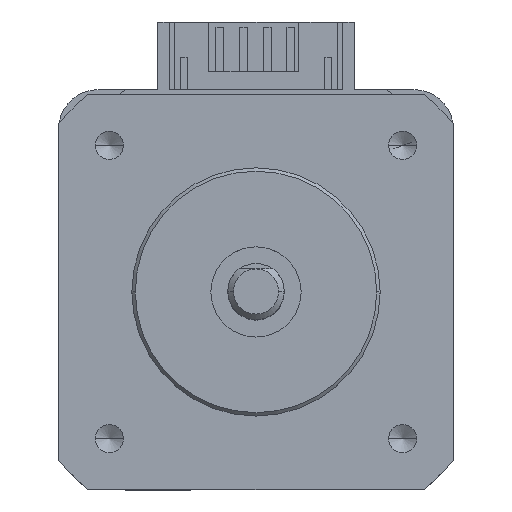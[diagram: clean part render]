
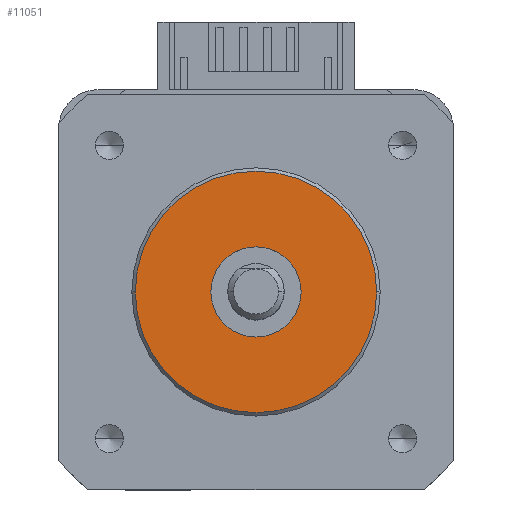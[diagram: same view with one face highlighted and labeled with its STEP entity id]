
A CAD part, top view. The second image highlights one B-rep face of the part: STEP entity #11051.
In plain terms, the highlighted planar face has unit normal (0, 0, 1).
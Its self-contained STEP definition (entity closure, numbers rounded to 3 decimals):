
#53 = DIRECTION ( 'NONE',  ( 1., 0., 0. ) ) ;
#400 = VERTEX_POINT ( 'NONE', #16834 ) ;
#411 = EDGE_LOOP ( 'NONE', ( #8684, #17828 ) ) ;
#945 = CIRCLE ( 'NONE', #2428, 10.7 ) ;
#1741 = VERTEX_POINT ( 'NONE', #6316 ) ;
#2428 = AXIS2_PLACEMENT_3D ( 'NONE', #5080, #9904, #11003 ) ;
#2576 = CARTESIAN_POINT ( 'NONE',  ( -16.263, 3.733, -4.2 ) ) ;
#2597 = EDGE_CURVE ( 'NONE', #400, #5759, #945, .T. ) ;
#3452 = AXIS2_PLACEMENT_3D ( 'NONE', #6509, #4969, #16379 ) ;
#3706 = FACE_OUTER_BOUND ( 'NONE', #20229, .T. ) ;
#4565 = ORIENTED_EDGE ( 'NONE', *, *, #15689, .T. ) ;
#4969 = DIRECTION ( 'NONE',  ( 0., 0., 1. ) ) ;
#5080 = CARTESIAN_POINT ( 'NONE',  ( -5.563, 3.733, -4.2 ) ) ;
#5759 = VERTEX_POINT ( 'NONE', #2576 ) ;
#6083 = ORIENTED_EDGE ( 'NONE', *, *, #2597, .T. ) ;
#6316 = CARTESIAN_POINT ( 'NONE',  ( -9.563, 3.733, -4.2 ) ) ;
#6509 = CARTESIAN_POINT ( 'NONE',  ( -5.563, 3.733, -4.2 ) ) ;
#8243 = AXIS2_PLACEMENT_3D ( 'NONE', #9439, #20813, #11037 ) ;
#8610 = CARTESIAN_POINT ( 'NONE',  ( -5.563, 3.733, -4.2 ) ) ;
#8684 = ORIENTED_EDGE ( 'NONE', *, *, #13066, .F. ) ;
#9439 = CARTESIAN_POINT ( 'NONE',  ( -5.563, 3.733, -4.2 ) ) ;
#9904 = DIRECTION ( 'NONE',  ( 0., 0., 1. ) ) ;
#9975 = DIRECTION ( 'NONE',  ( 0., 0., 1. ) ) ;
#10213 = DIRECTION ( 'NONE',  ( 1., 0., 0. ) ) ;
#10723 = CIRCLE ( 'NONE', #15659, 10.7 ) ;
#11003 = DIRECTION ( 'NONE',  ( 1., 0., 0. ) ) ;
#11037 = DIRECTION ( 'NONE',  ( 1., 0., 0. ) ) ;
#11051 = ADVANCED_FACE ( 'NONE', ( #3706, #16776 ), #11468, .T. ) ;
#11468 = PLANE ( 'NONE',  #3452 ) ;
#11955 = CIRCLE ( 'NONE', #21295, 4. ) ;
#12069 = CIRCLE ( 'NONE', #8243, 4. ) ;
#13066 = EDGE_CURVE ( 'NONE', #17658, #1741, #12069, .T. ) ;
#15659 = AXIS2_PLACEMENT_3D ( 'NONE', #19713, #9975, #53 ) ;
#15689 = EDGE_CURVE ( 'NONE', #5759, #400, #10723, .T. ) ;
#16379 = DIRECTION ( 'NONE',  ( 1., 0., 0. ) ) ;
#16776 = FACE_BOUND ( 'NONE', #411, .T. ) ;
#16834 = CARTESIAN_POINT ( 'NONE',  ( 5.137, 3.733, -4.2 ) ) ;
#17067 = EDGE_CURVE ( 'NONE', #1741, #17658, #11955, .T. ) ;
#17658 = VERTEX_POINT ( 'NONE', #21332 ) ;
#17828 = ORIENTED_EDGE ( 'NONE', *, *, #17067, .F. ) ;
#19713 = CARTESIAN_POINT ( 'NONE',  ( -5.563, 3.733, -4.2 ) ) ;
#19947 = DIRECTION ( 'NONE',  ( 0., 0., 1. ) ) ;
#20229 = EDGE_LOOP ( 'NONE', ( #4565, #6083 ) ) ;
#20813 = DIRECTION ( 'NONE',  ( 0., 0., 1. ) ) ;
#21295 = AXIS2_PLACEMENT_3D ( 'NONE', #8610, #19947, #10213 ) ;
#21332 = CARTESIAN_POINT ( 'NONE',  ( -1.563, 3.733, -4.2 ) ) ;
